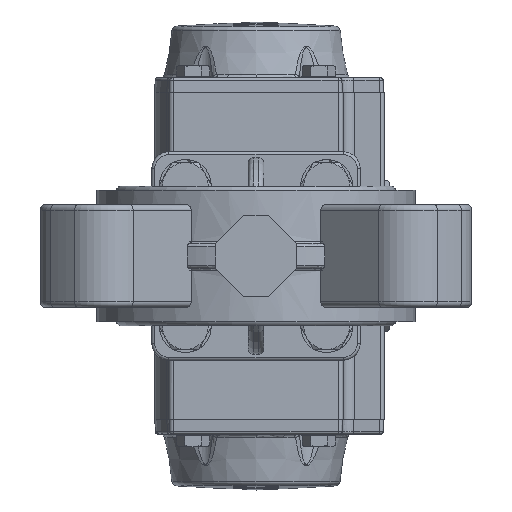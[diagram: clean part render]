
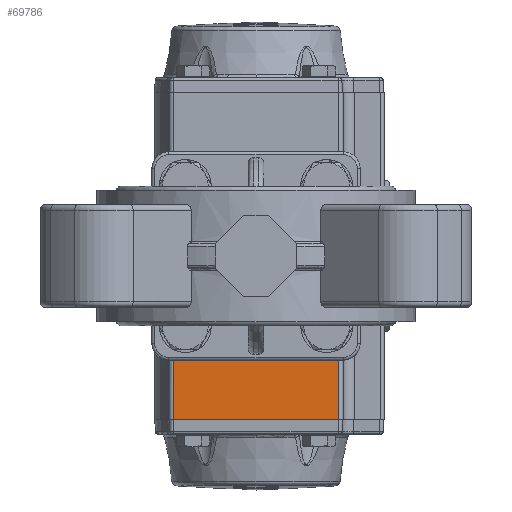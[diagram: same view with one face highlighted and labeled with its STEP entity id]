
A CAD part, front view. The second image highlights one B-rep face of the part: STEP entity #69786.
In plain terms, the highlighted planar face has unit normal (0, -1, 0).
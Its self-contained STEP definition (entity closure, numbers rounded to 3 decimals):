
#25341=CARTESIAN_POINT('',(29.,-39.,-57.4));
#25342=VERTEX_POINT('',#25341);
#25350=CARTESIAN_POINT('',(-29.,-39.,-57.4));
#25351=VERTEX_POINT('',#25350);
#25352=CARTESIAN_POINT('',(29.,-39.,-57.4));
#25353=DIRECTION('',(-1.0,0.0,0.0));
#25354=VECTOR('',#25353,58.);
#25355=LINE('',#25352,#25354);
#25356=EDGE_CURVE('',#25342,#25351,#25355,.T.);
#31743=CARTESIAN_POINT('',(29.,-39.,-36.5));
#31744=VERTEX_POINT('',#31743);
#31751=CARTESIAN_POINT('',(29.,-39.0,-57.4));
#31752=DIRECTION('',(0.0,0.0,1.0));
#31753=VECTOR('',#31752,20.9);
#31754=LINE('',#31751,#31753);
#31755=EDGE_CURVE('',#25342,#31744,#31754,.T.);
#34190=CARTESIAN_POINT('',(-29.,-39.,-36.5));
#34191=VERTEX_POINT('',#34190);
#34192=CARTESIAN_POINT('',(-29.,-39.0,-36.5));
#34193=DIRECTION('',(0.0,0.0,-1.0));
#34194=VECTOR('',#34193,20.9);
#34195=LINE('',#34192,#34194);
#34196=EDGE_CURVE('',#34191,#25351,#34195,.T.);
#69770=CARTESIAN_POINT('',(-29.,-39.0,-57.4));
#69771=DIRECTION('',(0.0,-1.0,0.0));
#69772=DIRECTION('',(0.0,0.0,-1.0));
#69773=AXIS2_PLACEMENT_3D('',#69770,#69771,#69772);
#69774=PLANE('',#69773);
#69775=CARTESIAN_POINT('',(29.,-39.0,-36.5));
#69776=DIRECTION('',(-1.0,0.0,0.0));
#69777=VECTOR('',#69776,58.);
#69778=LINE('',#69775,#69777);
#69779=EDGE_CURVE('',#31744,#34191,#69778,.T.);
#69780=ORIENTED_EDGE('',*,*,#69779,.T.);
#69781=ORIENTED_EDGE('',*,*,#34196,.T.);
#69782=ORIENTED_EDGE('',*,*,#25356,.F.);
#69783=ORIENTED_EDGE('',*,*,#31755,.T.);
#69784=EDGE_LOOP('',(#69780,#69781,#69782,#69783));
#69785=FACE_OUTER_BOUND('',#69784,.T.);
#69786=ADVANCED_FACE('',(#69785),#69774,.T.);
